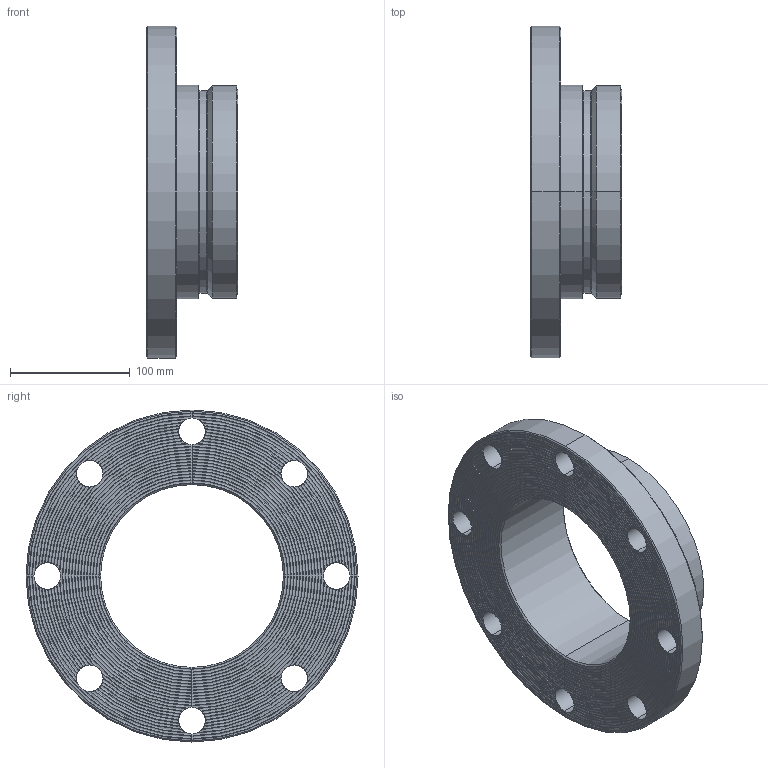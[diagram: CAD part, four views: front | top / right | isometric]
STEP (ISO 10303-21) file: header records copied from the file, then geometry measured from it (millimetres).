
FILE_DESCRIPTION (( 'STEP AP203' ), '1' );
FILE_NAME ('AA9FX-NX.STEP', '2019-12-10T17:48:02', ( 'Windows User' ), ( '' ), 'SwSTEP 2.0', 'SolidWorks 2017', '' );
FILE_SCHEMA (( 'CONFIG_CONTROL_DESIGN' ));
Length unit declared in the file: inch
Products named in the file (1): AA9FX-NX
Bounding box: 76.2 x 276.86 x 276.86 mm (x, y, z)
Surface area: 180487.2 mm2 (no closed solid volume)
Topology: 0 solids, 1 shells, 244 faces, 662 edges, 414 vertices
Faces by surface type: torus 204, cylinder 26, cone 10, plane 4
Entity records: 9179 total; most frequent: CARTESIAN_POINT 3261, ORIENTED_EDGE 1324, DIRECTION 1170, EDGE_CURVE 662, AXIS2_PLACEMENT_3D 567, VERTEX_POINT 414, CIRCLE 322, B_SPLINE_CURVE_WITH_KNOTS 304
